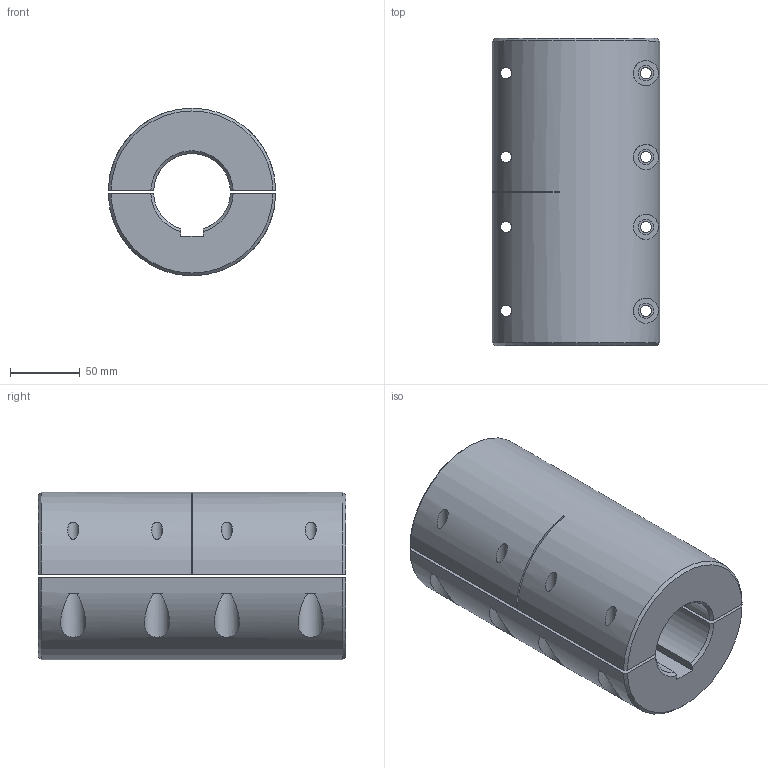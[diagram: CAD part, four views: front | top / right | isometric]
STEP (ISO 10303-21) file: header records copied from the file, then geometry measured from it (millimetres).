
FILE_DESCRIPTION (( 'STEP AP203' ), '1' );
FILE_NAME ('Y120-5555N-F.STEP', '2021-04-14T09:35:54', ( '' ), ( '' ), 'SwSTEP 2.0', 'SolidWorks 2020', '' );
FILE_SCHEMA (( 'CONFIG_CONTROL_DESIGN' ));
Length unit declared in the file: millimetre
Products named in the file (1): Y120-5555N-F
Bounding box: 119.98 x 220 x 120 mm (x, y, z)
Volume: 1844922.3 mm3; surface area: 185802.4 mm2
Topology: 2 solids, 2 shells, 66 faces, 162 edges, 108 vertices
Faces by surface type: cylinder 29, plane 27, cone 10
Full cylindrical faces by diameter (mm): 8 x8, 11 x8
Entity records: 3261 total; most frequent: CARTESIAN_POINT 1629, DIRECTION 304, ORIENTED_EDGE 292, EDGE_CURVE 146, AXIS2_PLACEMENT_3D 127, EDGE_LOOP 122, VERTEX_POINT 108, FACE_OUTER_BOUND 82
